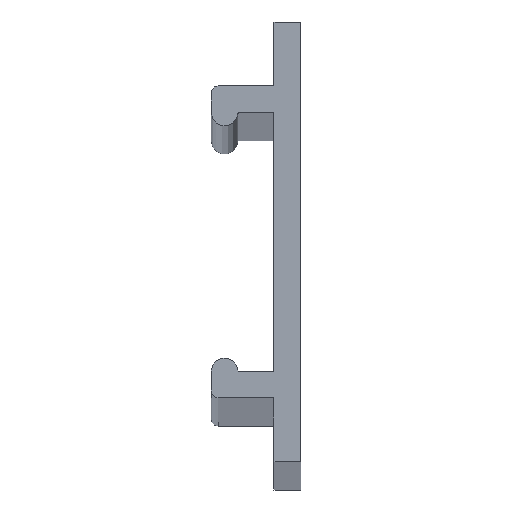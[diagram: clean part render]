
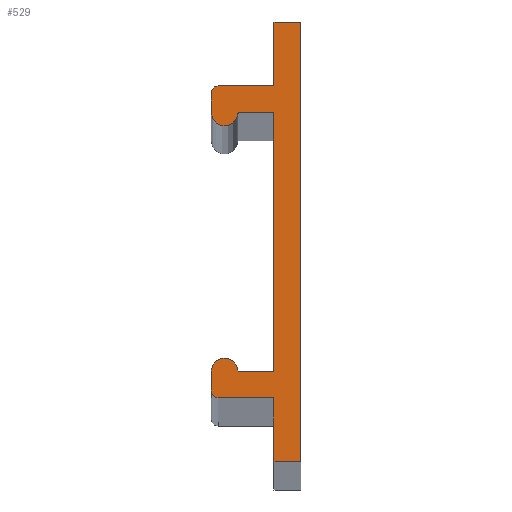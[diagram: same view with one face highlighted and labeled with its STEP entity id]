
A CAD part, top view. The second image highlights one B-rep face of the part: STEP entity #529.
In plain terms, the highlighted planar face has unit normal (0, 0, 1).
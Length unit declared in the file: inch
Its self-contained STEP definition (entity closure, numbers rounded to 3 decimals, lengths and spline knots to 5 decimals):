
#66=CARTESIAN_POINT('',(-0.16535,0.44094,24.));
#67=DIRECTION('',(0.,0.,1.));
#68=DIRECTION('',(0.,1.,0.));
#69=AXIS2_PLACEMENT_3D('',#66,#67,#68);
#71=DIRECTION('',(-1.,0.,0.));
#72=VECTOR('',#71,0.16535);
#73=CARTESIAN_POINT('',(0.,0.46063,24.));
#74=LINE('',#73,#72);
#75=DIRECTION('',(0.,-1.,0.));
#76=VECTOR('',#75,0.18898);
#77=CARTESIAN_POINT('',(0.,0.64961,24.));
#78=LINE('',#77,#76);
#79=DIRECTION('',(-1.,0.,0.));
#80=VECTOR('',#79,0.07874);
#81=CARTESIAN_POINT('',(0.07874,0.64961,24.));
#82=LINE('',#81,#80);
#83=DIRECTION('',(0.,1.,0.));
#84=VECTOR('',#83,1.29921);
#85=CARTESIAN_POINT('',(0.07874,-0.64961,24.));
#86=LINE('',#85,#84);
#87=DIRECTION('',(1.,0.,0.));
#88=VECTOR('',#87,0.07874);
#89=CARTESIAN_POINT('',(0.,-0.64961,24.));
#90=LINE('',#89,#88);
#91=DIRECTION('',(0.,-1.,0.));
#92=VECTOR('',#91,0.18898);
#93=CARTESIAN_POINT('',(0.,-0.46063,24.));
#94=LINE('',#93,#92);
#95=DIRECTION('',(1.,0.,0.));
#96=VECTOR('',#95,0.16535);
#97=CARTESIAN_POINT('',(-0.16535,-0.46063,24.));
#98=LINE('',#97,#96);
#99=CARTESIAN_POINT('',(-0.16535,-0.44094,24.));
#100=DIRECTION('',(0.,0.,1.));
#101=DIRECTION('',(-1.,0.,0.));
#102=AXIS2_PLACEMENT_3D('',#99,#100,#101);
#104=DIRECTION('',(0.,-1.,0.));
#105=VECTOR('',#104,0.05906);
#106=CARTESIAN_POINT('',(-0.18504,-0.38189,24.));
#107=LINE('',#106,#105);
#108=CARTESIAN_POINT('',(-0.14567,-0.38189,24.));
#109=DIRECTION('',(0.,0.,1.));
#110=DIRECTION('',(1.,0.,0.));
#111=AXIS2_PLACEMENT_3D('',#108,#109,#110);
#113=DIRECTION('',(-1.,0.,0.));
#114=VECTOR('',#113,0.1063);
#115=CARTESIAN_POINT('',(0.,-0.38189,24.));
#116=LINE('',#115,#114);
#117=DIRECTION('',(0.,-1.,0.));
#118=VECTOR('',#117,0.76378);
#119=CARTESIAN_POINT('',(0.,0.38189,24.));
#120=LINE('',#119,#118);
#121=DIRECTION('',(1.,0.,0.));
#122=VECTOR('',#121,0.1063);
#123=CARTESIAN_POINT('',(-0.1063,0.38189,24.));
#124=LINE('',#123,#122);
#125=CARTESIAN_POINT('',(-0.14567,0.38189,24.));
#126=DIRECTION('',(0.,0.,1.));
#127=DIRECTION('',(-1.,0.,0.));
#128=AXIS2_PLACEMENT_3D('',#125,#126,#127);
#130=DIRECTION('',(0.,-1.,0.));
#131=VECTOR('',#130,0.05906);
#132=CARTESIAN_POINT('',(-0.18504,0.44094,24.));
#133=LINE('',#132,#131);
#234=CARTESIAN_POINT('',(-0.16535,0.46063,24.));
#235=CARTESIAN_POINT('',(-0.18504,0.44094,24.));
#236=VERTEX_POINT('',#234);
#237=VERTEX_POINT('',#235);
#238=CARTESIAN_POINT('',(-0.18504,0.38189,24.));
#239=VERTEX_POINT('',#238);
#240=CARTESIAN_POINT('',(-0.1063,0.38189,24.));
#241=VERTEX_POINT('',#240);
#242=CARTESIAN_POINT('',(0.,0.38189,24.));
#243=VERTEX_POINT('',#242);
#244=CARTESIAN_POINT('',(0.,-0.38189,24.));
#245=VERTEX_POINT('',#244);
#246=CARTESIAN_POINT('',(-0.1063,-0.38189,24.));
#247=VERTEX_POINT('',#246);
#248=CARTESIAN_POINT('',(-0.18504,-0.38189,24.));
#249=VERTEX_POINT('',#248);
#250=CARTESIAN_POINT('',(-0.18504,-0.44094,24.));
#251=VERTEX_POINT('',#250);
#252=CARTESIAN_POINT('',(-0.16535,-0.46063,24.));
#253=VERTEX_POINT('',#252);
#254=CARTESIAN_POINT('',(0.,-0.46063,24.));
#255=VERTEX_POINT('',#254);
#256=CARTESIAN_POINT('',(0.,-0.64961,24.));
#257=VERTEX_POINT('',#256);
#258=CARTESIAN_POINT('',(0.07874,-0.64961,24.));
#259=VERTEX_POINT('',#258);
#260=CARTESIAN_POINT('',(0.07874,0.64961,24.));
#261=VERTEX_POINT('',#260);
#262=CARTESIAN_POINT('',(0.,0.64961,24.));
#263=VERTEX_POINT('',#262);
#264=CARTESIAN_POINT('',(0.,0.46063,24.));
#265=VERTEX_POINT('',#264);
#506=CARTESIAN_POINT('',(0.,0.,24.));
#507=DIRECTION('',(0.,0.,1.));
#508=DIRECTION('',(1.,0.,0.));
#509=AXIS2_PLACEMENT_3D('',#506,#507,#508);
#510=PLANE('',#509);
#511=ORIENTED_EDGE('',*,*,#498,.F.);
#512=ORIENTED_EDGE('',*,*,#273,.F.);
#513=ORIENTED_EDGE('',*,*,#289,.F.);
#514=ORIENTED_EDGE('',*,*,#304,.F.);
#515=ORIENTED_EDGE('',*,*,#319,.F.);
#516=ORIENTED_EDGE('',*,*,#334,.F.);
#517=ORIENTED_EDGE('',*,*,#349,.F.);
#518=ORIENTED_EDGE('',*,*,#364,.F.);
#519=ORIENTED_EDGE('',*,*,#379,.F.);
#520=ORIENTED_EDGE('',*,*,#394,.F.);
#521=ORIENTED_EDGE('',*,*,#409,.F.);
#522=ORIENTED_EDGE('',*,*,#424,.F.);
#523=ORIENTED_EDGE('',*,*,#439,.F.);
#524=ORIENTED_EDGE('',*,*,#454,.F.);
#525=ORIENTED_EDGE('',*,*,#469,.F.);
#526=ORIENTED_EDGE('',*,*,#484,.F.);
#527=EDGE_LOOP('',(#511,#512,#513,#514,#515,#516,#517,#518,#519,#520,#521,#522,
#523,#524,#525,#526));
#528=FACE_OUTER_BOUND('',#527,.F.);
#70=CIRCLE('',#69,0.01969);
#103=CIRCLE('',#102,0.01969);
#112=CIRCLE('',#111,0.03937);
#129=CIRCLE('',#128,0.03937);
#273=EDGE_CURVE('',#265,#236,#74,.T.);
#289=EDGE_CURVE('',#263,#265,#78,.T.);
#304=EDGE_CURVE('',#261,#263,#82,.T.);
#319=EDGE_CURVE('',#259,#261,#86,.T.);
#334=EDGE_CURVE('',#257,#259,#90,.T.);
#349=EDGE_CURVE('',#255,#257,#94,.T.);
#364=EDGE_CURVE('',#253,#255,#98,.T.);
#379=EDGE_CURVE('',#251,#253,#103,.T.);
#394=EDGE_CURVE('',#249,#251,#107,.T.);
#409=EDGE_CURVE('',#247,#249,#112,.T.);
#424=EDGE_CURVE('',#245,#247,#116,.T.);
#439=EDGE_CURVE('',#243,#245,#120,.T.);
#454=EDGE_CURVE('',#241,#243,#124,.T.);
#469=EDGE_CURVE('',#239,#241,#129,.T.);
#484=EDGE_CURVE('',#237,#239,#133,.T.);
#498=EDGE_CURVE('',#236,#237,#70,.T.);
#529=ADVANCED_FACE('',(#528),#510,.T.);
